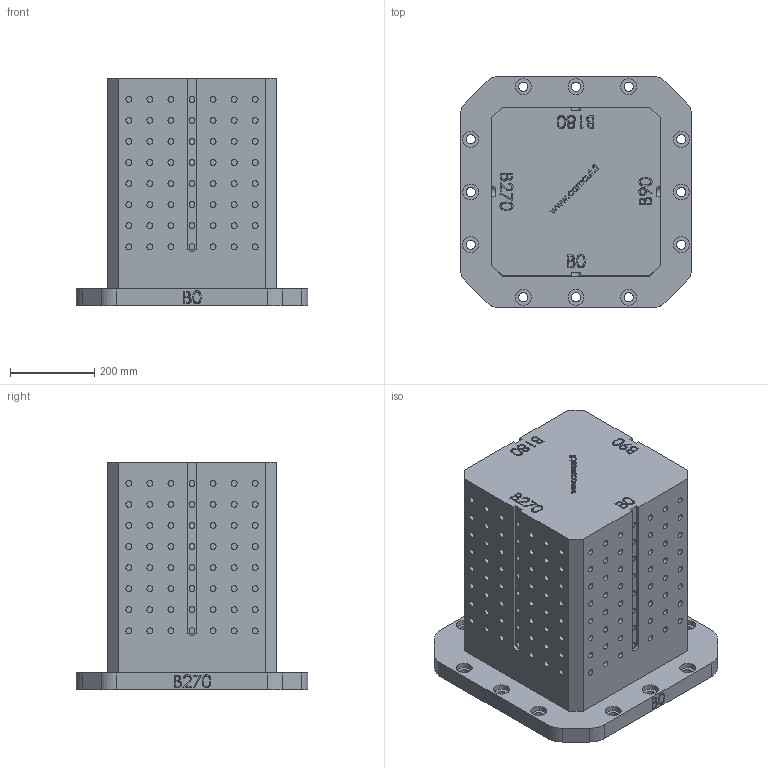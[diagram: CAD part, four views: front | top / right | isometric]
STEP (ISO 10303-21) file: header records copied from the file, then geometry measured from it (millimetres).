
FILE_DESCRIPTION((''),'2;1');
FILE_NAME('C:\Users\User\Desktop\Mastercam-harjoitukset\torni.stp','2020-03-27T19:18:08',(''),(''),'STEP Write','Mastercam 2020 ... CNC Software, Inc.','');
FILE_SCHEMA(('AUTOMOTIVE_DESIGN'));
Length unit declared in the file: millimetre
Products named in the file (1): None
Bounding box: 550 x 550 x 540 mm (x, y, z)
Volume: 89415985 mm3; surface area: 1786390.5 mm2
Topology: 1 solids, 1 shells, 1068 faces, 2386 edges, 1628 vertices
Faces by surface type: plane 545, bspline 263, cylinder 260
Full cylindrical faces by diameter (mm): 14 x224, 22 x12, 37.641 x12
Entity records: 44528 total; most frequent: CARTESIAN_POINT 22436, ORIENTED_EDGE 4052, DIRECTION 3634, EDGE_CURVE 2026, EDGE_LOOP 1648, VERTEX_POINT 1516, AXIS2_PLACEMENT_3D 1327, STYLED_ITEM 1070
